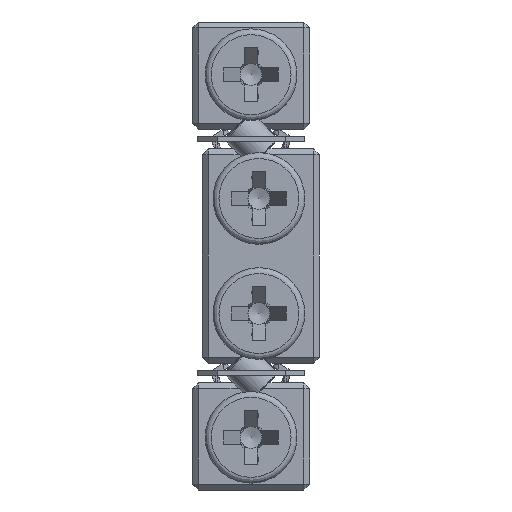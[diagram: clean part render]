
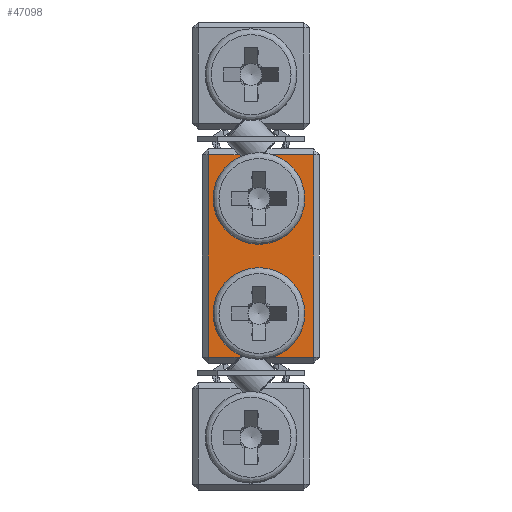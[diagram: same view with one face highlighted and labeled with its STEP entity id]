
A CAD part, left-side view. The second image highlights one B-rep face of the part: STEP entity #47098.
In plain terms, the highlighted planar face has unit normal (-1, 0, 0).
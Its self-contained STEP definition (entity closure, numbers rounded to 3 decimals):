
#814 = VERTEX_POINT ( 'NONE', #48741 ) ;
#1449 = AXIS2_PLACEMENT_3D ( 'NONE', #28620, #20088, #33685 ) ;
#1549 = VERTEX_POINT ( 'NONE', #49706 ) ;
#1772 = DIRECTION ( 'NONE',  ( 0., 0.707, 0.707 ) ) ;
#1888 = VECTOR ( 'NONE', #20464, 1000. ) ;
#1950 = VERTEX_POINT ( 'NONE', #45658 ) ;
#2768 = AXIS2_PLACEMENT_3D ( 'NONE', #11605, #25213, #11878 ) ;
#2847 = LINE ( 'NONE', #11681, #1888 ) ;
#3584 = CARTESIAN_POINT ( 'NONE',  ( -90., 5.7, 5.2 ) ) ;
#3934 = VERTEX_POINT ( 'NONE', #50497 ) ;
#4161 = EDGE_LOOP ( 'NONE', ( #28365, #9734, #10847, #53921, #25293, #11730, #22162, #50034, #39485, #23554, #4250, #46568 ) ) ;
#4250 = ORIENTED_EDGE ( 'NONE', *, *, #47202, .T. ) ;
#4269 = CARTESIAN_POINT ( 'NONE',  ( -90., 6., -5.5 ) ) ;
#4770 = LINE ( 'NONE', #30892, #26835 ) ;
#5491 = LINE ( 'NONE', #14598, #55191 ) ;
#8309 = EDGE_CURVE ( 'NONE', #55237, #23391, #17208, .T. ) ;
#9429 = LINE ( 'NONE', #14812, #28582 ) ;
#9734 = ORIENTED_EDGE ( 'NONE', *, *, #29851, .T. ) ;
#10847 = ORIENTED_EDGE ( 'NONE', *, *, #43510, .T. ) ;
#11605 = CARTESIAN_POINT ( 'NONE',  ( -90., 3.1, -2.95 ) ) ;
#11678 = LINE ( 'NONE', #29255, #33523 ) ;
#11681 = CARTESIAN_POINT ( 'NONE',  ( -90., 5.7, -5.5 ) ) ;
#11730 = ORIENTED_EDGE ( 'NONE', *, *, #38630, .T. ) ;
#11878 = DIRECTION ( 'NONE',  ( 0., 0., 1. ) ) ;
#12249 = LINE ( 'NONE', #20179, #24475 ) ;
#13302 = CIRCLE ( 'NONE', #1449, 2.25 ) ;
#13394 = DIRECTION ( 'NONE',  ( 1., 0., 0. ) ) ;
#13483 = EDGE_CURVE ( 'NONE', #28314, #40759, #54697, .T. ) ;
#13839 = EDGE_CURVE ( 'NONE', #23391, #26938, #2847, .T. ) ;
#14598 = CARTESIAN_POINT ( 'NONE',  ( -90., -0.292, 0.792 ) ) ;
#14812 = CARTESIAN_POINT ( 'NONE',  ( -90., 6., -5.2 ) ) ;
#14952 = CARTESIAN_POINT ( 'NONE',  ( -90., 2.894, 5.191 ) ) ;
#15323 = CARTESIAN_POINT ( 'NONE',  ( -90., 0.3, -5.5 ) ) ;
#15512 = CARTESIAN_POINT ( 'NONE',  ( -90., 2.885, 5.2 ) ) ;
#15791 = CARTESIAN_POINT ( 'NONE',  ( -90., 6., 5.2 ) ) ;
#17208 = LINE ( 'NONE', #55833, #33222 ) ;
#18050 = CARTESIAN_POINT ( 'NONE',  ( -90., 2.894, -5.191 ) ) ;
#18123 = VERTEX_POINT ( 'NONE', #18785 ) ;
#18785 = CARTESIAN_POINT ( 'NONE',  ( -90., 3.949, 5.034 ) ) ;
#20088 = DIRECTION ( 'NONE',  ( 1., 0., 0. ) ) ;
#20179 = CARTESIAN_POINT ( 'NONE',  ( -90., 5.207, -6.292 ) ) ;
#20464 = DIRECTION ( 'NONE',  ( 0., 0., -1. ) ) ;
#20939 = EDGE_CURVE ( 'NONE', #3934, #40980, #49318, .T. ) ;
#22162 = ORIENTED_EDGE ( 'NONE', *, *, #37215, .F. ) ;
#23391 = VERTEX_POINT ( 'NONE', #3584 ) ;
#23554 = ORIENTED_EDGE ( 'NONE', *, *, #30698, .T. ) ;
#24475 = VECTOR ( 'NONE', #42873, 1000. ) ;
#25213 = DIRECTION ( 'NONE',  ( 1., 0., 0. ) ) ;
#25293 = ORIENTED_EDGE ( 'NONE', *, *, #13839, .T. ) ;
#25863 = FACE_OUTER_BOUND ( 'NONE', #4161, .T. ) ;
#26260 = CARTESIAN_POINT ( 'NONE',  ( -90., 5.7, -5.2 ) ) ;
#26835 = VECTOR ( 'NONE', #39141, 1000. ) ;
#26938 = VERTEX_POINT ( 'NONE', #26260 ) ;
#27312 = DIRECTION ( 'NONE',  ( 0., -1., 0. ) ) ;
#28314 = VERTEX_POINT ( 'NONE', #52871 ) ;
#28365 = ORIENTED_EDGE ( 'NONE', *, *, #37204, .T. ) ;
#28582 = VECTOR ( 'NONE', #27312, 1000. ) ;
#28620 = CARTESIAN_POINT ( 'NONE',  ( -90., 3.1, 2.95 ) ) ;
#29255 = CARTESIAN_POINT ( 'NONE',  ( -90., 9.792, -1.708 ) ) ;
#29851 = EDGE_CURVE ( 'NONE', #31069, #18123, #13302, .T. ) ;
#30698 = EDGE_CURVE ( 'NONE', #3934, #1950, #9429, .T. ) ;
#30892 = CARTESIAN_POINT ( 'NONE',  ( -90., 6., -5.2 ) ) ;
#31069 = VERTEX_POINT ( 'NONE', #14952 ) ;
#31504 = LINE ( 'NONE', #15323, #32724 ) ;
#32724 = VECTOR ( 'NONE', #49917, 1000. ) ;
#33222 = VECTOR ( 'NONE', #33636, 1000. ) ;
#33523 = VECTOR ( 'NONE', #55683, 1000. ) ;
#33636 = DIRECTION ( 'NONE',  ( 0., 1., 0. ) ) ;
#33685 = DIRECTION ( 'NONE',  ( 0., 0., 1. ) ) ;
#36015 = DIRECTION ( 'NONE',  ( 0., 0.707, 0.707 ) ) ;
#36528 = DIRECTION ( 'NONE',  ( 0., 1., 0. ) ) ;
#37204 = EDGE_CURVE ( 'NONE', #40759, #31069, #11678, .T. ) ;
#37215 = EDGE_CURVE ( 'NONE', #814, #1549, #12249, .T. ) ;
#38138 = VECTOR ( 'NONE', #36528, 1000. ) ;
#38630 = EDGE_CURVE ( 'NONE', #26938, #1549, #4770, .T. ) ;
#38918 = DIRECTION ( 'NONE',  ( 0., 0., -1. ) ) ;
#39141 = DIRECTION ( 'NONE',  ( 0., -1., 0. ) ) ;
#39485 = ORIENTED_EDGE ( 'NONE', *, *, #20939, .F. ) ;
#40759 = VERTEX_POINT ( 'NONE', #15512 ) ;
#40980 = VERTEX_POINT ( 'NONE', #18050 ) ;
#42586 = CARTESIAN_POINT ( 'NONE',  ( -90., 4.115, 5.2 ) ) ;
#42873 = DIRECTION ( 'NONE',  ( 0., 0.707, -0.707 ) ) ;
#43510 = EDGE_CURVE ( 'NONE', #18123, #55237, #5491, .T. ) ;
#43729 = PLANE ( 'NONE',  #52710 ) ;
#44469 = VECTOR ( 'NONE', #36015, 1000. ) ;
#45658 = CARTESIAN_POINT ( 'NONE',  ( -90., 0.3, -5.2 ) ) ;
#46130 = EDGE_CURVE ( 'NONE', #814, #40980, #51761, .T. ) ;
#46568 = ORIENTED_EDGE ( 'NONE', *, *, #13483, .T. ) ;
#47098 = ADVANCED_FACE ( 'NONE', ( #25863 ), #43729, .F. ) ;
#47202 = EDGE_CURVE ( 'NONE', #1950, #28314, #31504, .T. ) ;
#48741 = CARTESIAN_POINT ( 'NONE',  ( -90., 3.949, -5.034 ) ) ;
#49318 = LINE ( 'NONE', #53063, #44469 ) ;
#49706 = CARTESIAN_POINT ( 'NONE',  ( -90., 4.115, -5.2 ) ) ;
#49917 = DIRECTION ( 'NONE',  ( 0., 0., 1. ) ) ;
#50034 = ORIENTED_EDGE ( 'NONE', *, *, #46130, .T. ) ;
#50497 = CARTESIAN_POINT ( 'NONE',  ( -90., 2.885, -5.2 ) ) ;
#51761 = CIRCLE ( 'NONE', #2768, 2.25 ) ;
#52710 = AXIS2_PLACEMENT_3D ( 'NONE', #4269, #13394, #38918 ) ;
#52871 = CARTESIAN_POINT ( 'NONE',  ( -90., 0.3, 5.2 ) ) ;
#53063 = CARTESIAN_POINT ( 'NONE',  ( -90., 4.292, -3.792 ) ) ;
#53921 = ORIENTED_EDGE ( 'NONE', *, *, #8309, .T. ) ;
#54697 = LINE ( 'NONE', #15791, #38138 ) ;
#55191 = VECTOR ( 'NONE', #1772, 1000. ) ;
#55237 = VERTEX_POINT ( 'NONE', #42586 ) ;
#55683 = DIRECTION ( 'NONE',  ( 0., 0.707, -0.707 ) ) ;
#55833 = CARTESIAN_POINT ( 'NONE',  ( -90., 6., 5.2 ) ) ;
